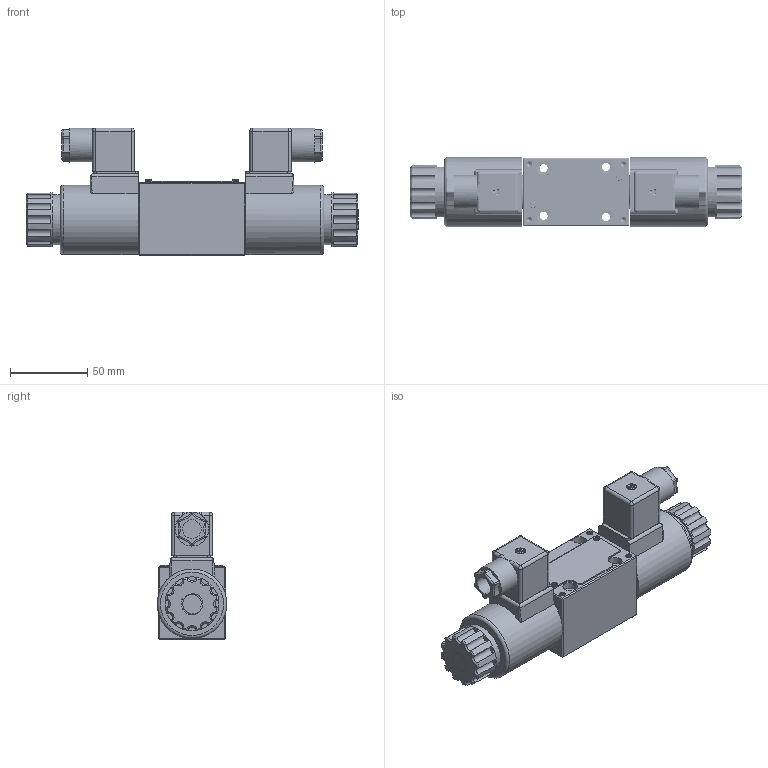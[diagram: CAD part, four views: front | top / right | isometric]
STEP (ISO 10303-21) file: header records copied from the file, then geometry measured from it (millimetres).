
FILE_DESCRIPTION(/* description */ (''),/* implementation_level */ '2;1');
FILE_NAME(/* name */ '4WRA6-2XJ比例换向阀.prt.stp',/* time_stamp */ '2022-03-30T18:32:13+08:00',/* author */ (''),/* organization */ (''),/* preprocessor_version */ 'ST-DEVELOPER v16.7',/* originating_system */ 'SIEMENS PLM Software NX 12.0',/* authorisation */ '');
FILE_SCHEMA (('AUTOMOTIVE_DESIGN { 1 0 10303 214 3 1 1 1 }'));
Products named in the file (1): 4WRA6-2XJ比例换向阀
Bounding box: 215.4 x 45 x 82.89 mm (x, y, z)
Volume: 135281.3 mm3; surface area: 106298.2 mm2
Topology: 21 solids, 24 shells, 927 faces, 2339 edges, 1468 vertices
Faces by surface type: cylinder 401, plane 343, cone 77, torus 38, bspline 38, sphere 30
Full cylindrical faces by diameter (mm): 1.5 x4, 1.8 x4, 2 x8, 2.5 x2, 2.55 x38, 3 x78, 3.2 x59, 3.5 x2, 4 x4, 5.3 x4, 5.5 x2, 6 x2, 6.5 x2, 8.1 x2, 8.7 x2, 9.4 x4, 11 x2, 12.085 x2, 12.2 x7, 14.3 x2, 17.4 x2, 18 x2, 22 x2, 23 x4, 24 x2, 32.5 x2, 35 x2, 45 x2
Entity records: 69925 total; most frequent: CARTESIAN_POINT 53152, DIRECTION 3452, ORIENTED_EDGE 3224, EDGE_CURVE 1612, AXIS2_PLACEMENT_3D 1361, VERTEX_POINT 1082, EDGE_LOOP 962, ADVANCED_FACE 757
